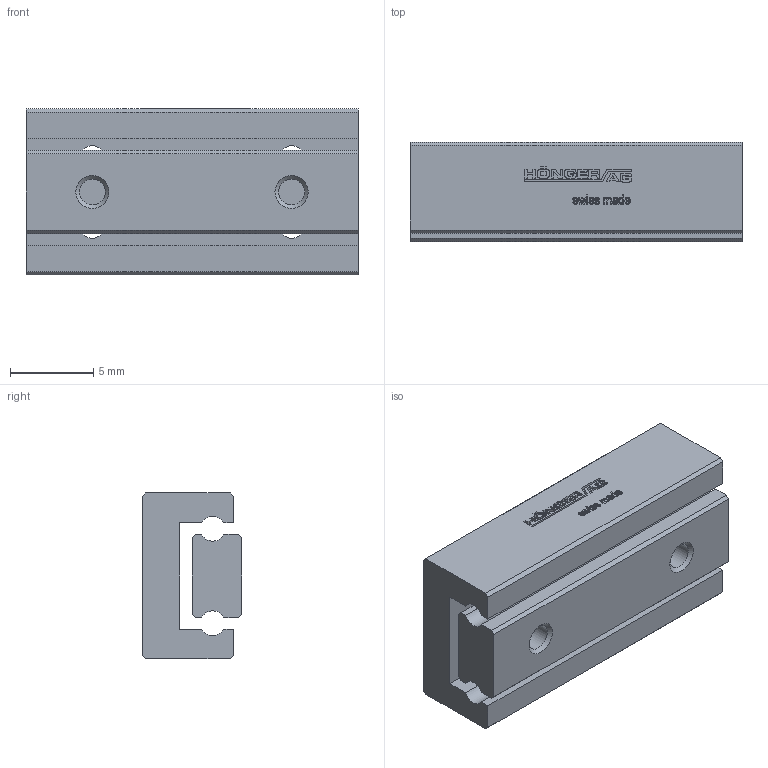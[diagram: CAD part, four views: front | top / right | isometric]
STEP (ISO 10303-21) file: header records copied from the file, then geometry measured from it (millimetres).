
FILE_DESCRIPTION(/* description */ ('STEP AP214'),/* implementation_level */ '2;1');
FILE_NAME(/* name */ 'NDN 1-20.10(0)',/* time_stamp */ '2025-04-16T17:09:12+02:00',/* author */ ('License CC BY-ND 4.0'),/* organization */ ('CADENAS'),/* preprocessor_version */ 'ST-DEVELOPER v19.3',/* originating_system */ 'PARTsolutions',/* authorisation */ ' ');
FILE_SCHEMA (('AUTOMOTIVE_DESIGN {1 0 10303 214 3 1 1}'));
Length unit declared in the file: millimetre
Products named in the file (3): NDN 1-20.10(0); NDN 1-20.10_1; NDN 1-20.10_2
Assembly tree (2 placements, depth 2):
  NDN 1-20.10(0)
    NDN 1-20.10_1
    NDN 1-20.10_2
Bounding box: 20 x 6 x 10 mm (x, y, z)
Volume: 919.9 mm3; surface area: 1229.5 mm2
Topology: 2 solids, 2 shells, 511 faces, 1432 edges, 952 vertices
Faces by surface type: cylinder 302, plane 201, cone 8
Full cylindrical faces by diameter (mm): 1.567 x6
Entity records: 16723 total; most frequent: DIRECTION 3058, CARTESIAN_POINT 2884, ORIENTED_EDGE 2836, EDGE_CURVE 1418, AXIS2_PLACEMENT_3D 1126, VERTEX_POINT 952, LINE 806, VECTOR 806
